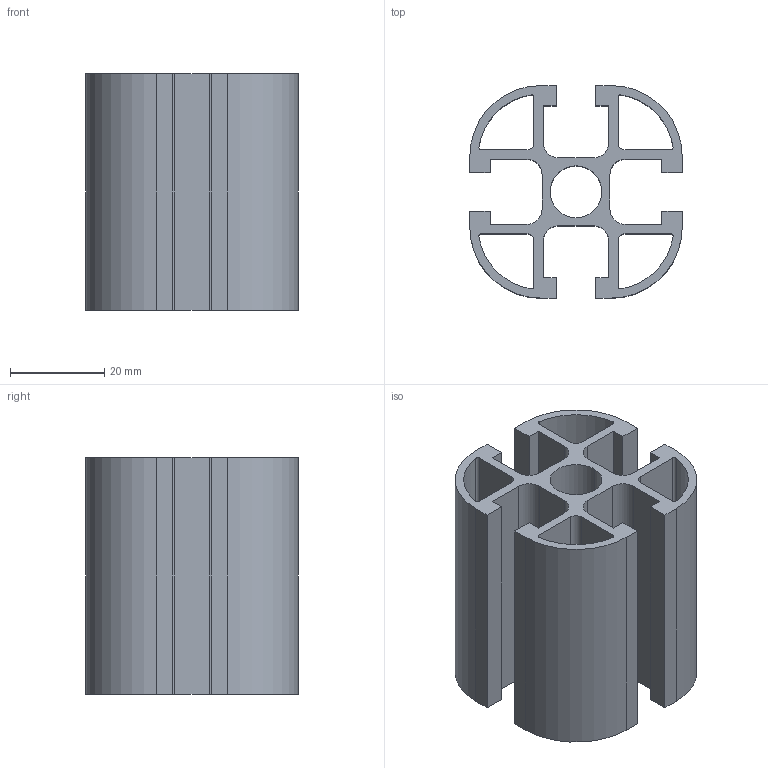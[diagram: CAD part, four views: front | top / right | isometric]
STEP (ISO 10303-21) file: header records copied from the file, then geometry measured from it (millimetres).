
FILE_DESCRIPTION (( 'STEP AP214' ), '1' );
FILE_NAME ('115.101.001.STEP', '2018-04-17T09:19:37', ( '' ), ( '' ), 'SwSTEP 2.0', 'SolidWorks 2016', '' );
FILE_SCHEMA (( 'AUTOMOTIVE_DESIGN' ));
Length unit declared in the file: millimetre
Products named in the file (1): 115.101.001
Bounding box: 45 x 45 x 50 mm (x, y, z)
Volume: 29964.6 mm3; surface area: 26441.7 mm2
Topology: 1 solids, 1 shells, 78 faces, 228 edges, 152 vertices
Faces by surface type: plane 46, cylinder 32
Entity records: 2650 total; most frequent: CARTESIAN_POINT 459, ORIENTED_EDGE 456, DIRECTION 450, EDGE_CURVE 228, LINE 164, VECTOR 164, VERTEX_POINT 152, AXIS2_PLACEMENT_3D 143
